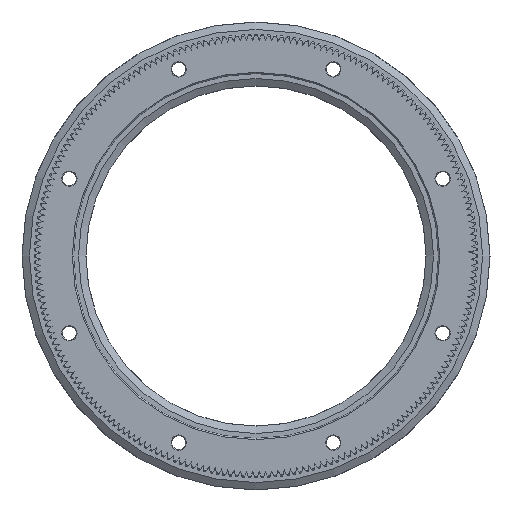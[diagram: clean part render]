
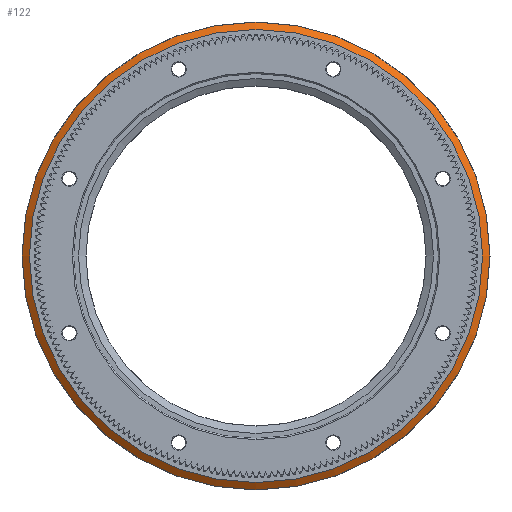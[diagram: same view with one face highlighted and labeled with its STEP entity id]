
A CAD part, front view. The second image highlights one B-rep face of the part: STEP entity #122.
In plain terms, the highlighted conical face has half-angle 55 degrees and reference radius 89.157 mm.
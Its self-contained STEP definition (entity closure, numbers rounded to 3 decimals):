
#122 = ADVANCED_FACE( '', ( #1569, #1570 ), #1571, .T. );
#1569 = FACE_OUTER_BOUND( '', #4319, .T. );
#1570 = FACE_BOUND( '', #4320, .T. );
#1571 = CONICAL_SURFACE( '', #4321, 89.157, 0.96 );
#4319 = EDGE_LOOP( '', ( #7836 ) );
#4320 = EDGE_LOOP( '', ( #7837 ) );
#4321 = AXIS2_PLACEMENT_3D( '', #7838, #7839, #7840 );
#7836 = ORIENTED_EDGE( '', *, *, #18690, .T. );
#7837 = ORIENTED_EDGE( '', *, *, #18691, .F. );
#7838 = CARTESIAN_POINT( '', ( 0., 7.75, 0. ) );
#7839 = DIRECTION( '', ( 0., 1., 0. ) );
#7840 = DIRECTION( '', ( 0., 0., 1. ) );
#18690 = EDGE_CURVE( '', #22912, #22912, #22913, .T. );
#18691 = EDGE_CURVE( '', #22914, #22914, #22915, .T. );
#22912 = VERTEX_POINT( '', #29105 );
#22913 = CIRCLE( '', #29106, 91.937 );
#22914 = VERTEX_POINT( '', #29107 );
#22915 = CIRCLE( '', #29108, 89.157 );
#29105 = CARTESIAN_POINT( '', ( 0., 9.697, -91.937 ) );
#29106 = AXIS2_PLACEMENT_3D( '', #37444, #37445, #37446 );
#29107 = CARTESIAN_POINT( '', ( 0., 7.75, -89.157 ) );
#29108 = AXIS2_PLACEMENT_3D( '', #37447, #37448, #37449 );
#37444 = CARTESIAN_POINT( '', ( 0., 9.697, 0. ) );
#37445 = DIRECTION( '', ( 0., -1., 0. ) );
#37446 = DIRECTION( '', ( 0., 0., -1. ) );
#37447 = CARTESIAN_POINT( '', ( 0., 7.75, 0. ) );
#37448 = DIRECTION( '', ( 0., -1., 0. ) );
#37449 = DIRECTION( '', ( 0., 0., -1. ) );
